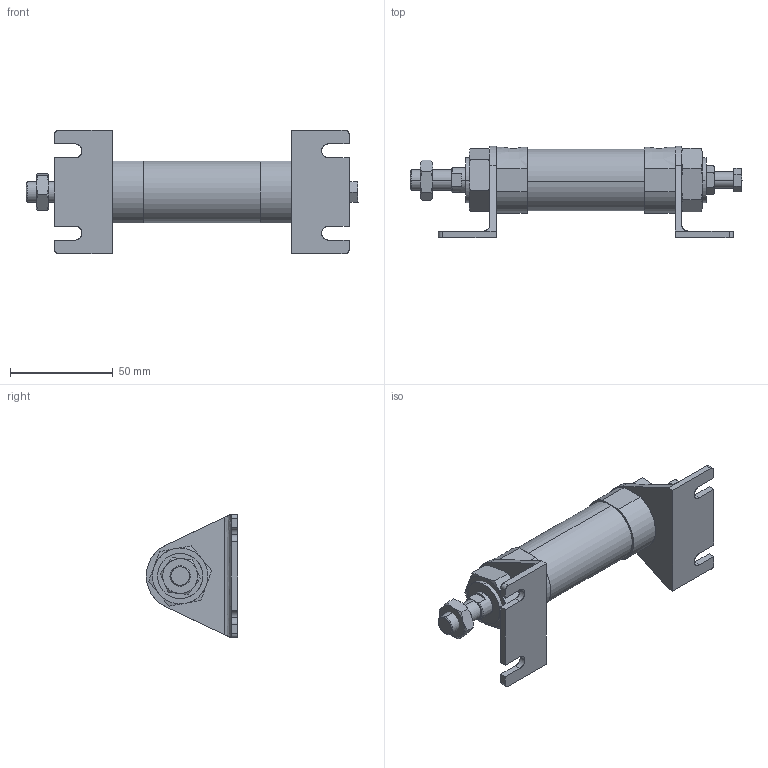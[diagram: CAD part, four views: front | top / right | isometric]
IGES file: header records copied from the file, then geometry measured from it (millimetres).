
Start section: SolidWorks IGES file using analytic representation for surfaces
Global section: file name: C:\Users\Toshiba\Desktop\JGA2-25-25-L.IGS; native system: SolidWorks 2014; preprocessor: SolidWorks 2014; author: Toshiba; date: 160420.130617; units: millimetre
Bounding box: 161.5 x 44.5 x 60 mm (x, y, z)
Surface area: 35804.7 mm2 (no closed solid volume)
Topology: 0 solids, 0 shells, 198 faces, 3204 edges, 3200 vertices
Faces by surface type: bspline 138, revolution 60
